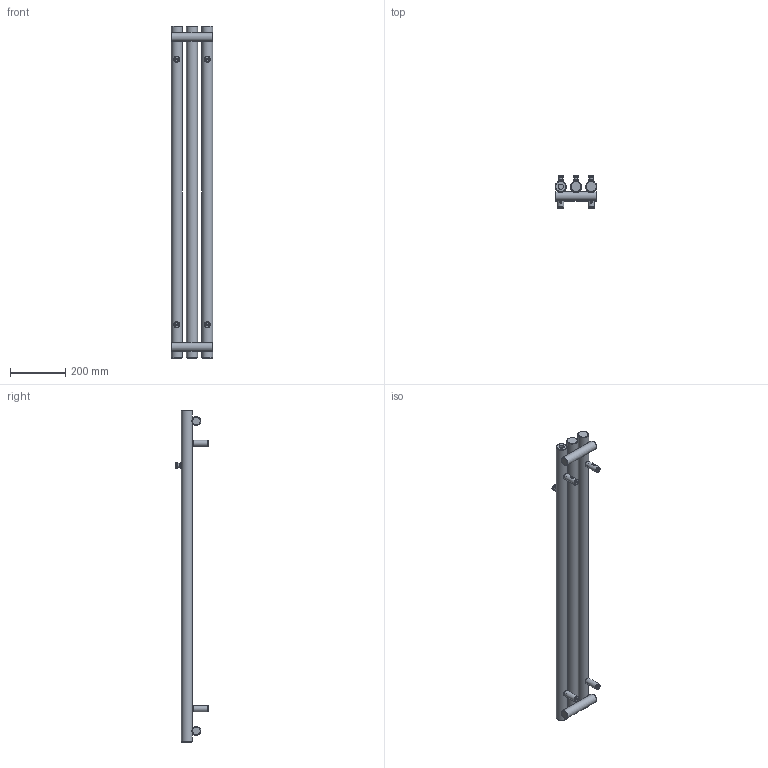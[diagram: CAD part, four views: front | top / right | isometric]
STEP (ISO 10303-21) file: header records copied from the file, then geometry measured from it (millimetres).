
FILE_DESCRIPTION(/* description */ (''),/* implementation_level */ '2;1');
FILE_NAME(/* name */ 'Z:\R\G\P\RGP116 - Grzejniki Geyser\Work\Inventor\Circolo (Rolo V, Rolo H)\ROLO-HANGER\Marketing\Bryły\Zaokrąglone\WGROW120015-SX-CK-(Z).stp',/* time_stamp */ '2024-03-27T09:35:42+01:00',/* author */ ('NowAd'),/* organization */ (''),/* preprocessor_version */ 'ST-DEVELOPER v17.2',/* originating_system */ 'Autodesk Inventor 2019',/* authorisation */ '');
FILE_SCHEMA (('AUTOMOTIVE_DESIGN { 1 0 10303 214 3 1 1 }'));
Length unit declared in the file: millimetre
Products named in the file (3): WGROR120015-SX-CK-(Z); PGROR120015-SX-CK-(K); CK-V-fi40 marketing
Assembly tree (5 placements, depth 2):
  WGROR120015-SX-CK-(Z)
    PGROR120015-SX-CK-(K)
    CK-V-fi40 marketing  x4
Bounding box: 150 x 116.5 x 1200 mm (x, y, z)
Volume: 4819554.4 mm3; surface area: 526666.4 mm2
Topology: 5 solids, 5 shells, 341 faces, 870 edges, 587 vertices
Faces by surface type: plane 138, cylinder 81, cone 60, torus 53, bspline 9
Full cylindrical faces by diameter (mm): 4.134 x4, 4.48 x4, 6.4 x4, 10 x4, 12 x4, 14 x3, 15.834 x4, 16 x4, 18.631 x3, 20 x6, 22 x4, 32 x2, 40 x3
Entity records: 6876 total; most frequent: CARTESIAN_POINT 2905, DIRECTION 861, ORIENTED_EDGE 784, EDGE_CURVE 392, AXIS2_PLACEMENT_3D 388, VERTEX_POINT 272, CIRCLE 223, EDGE_LOOP 198
